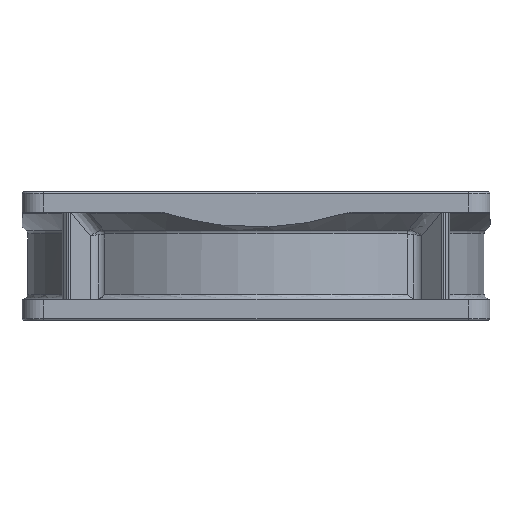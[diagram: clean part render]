
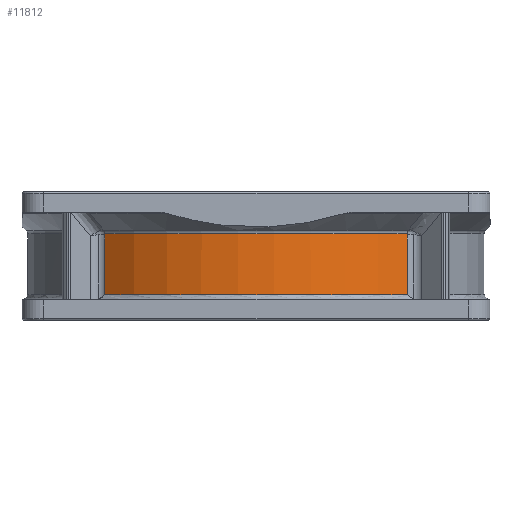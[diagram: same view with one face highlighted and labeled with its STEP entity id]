
A CAD part, left-side view. The second image highlights one B-rep face of the part: STEP entity #11812.
In plain terms, the highlighted cylindrical face has radius 45 mm (diameter 90 mm), a partial arc.
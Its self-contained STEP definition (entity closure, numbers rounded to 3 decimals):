
#165 = ORIENTED_EDGE ( 'NONE', *, *, #15257, .T. ) ;
#271 = B_SPLINE_CURVE_WITH_KNOTS ( 'NONE', 3,
 ( #22482, #15378, #20776, #9972 ),
 .UNSPECIFIED., .F., .F.,
 ( 4, 4 ),
 ( 0., 0. ),
 .UNSPECIFIED. ) ;
#618 = EDGE_CURVE ( 'NONE', #3484, #15333, #7949, .T. ) ;
#701 = VERTEX_POINT ( 'NONE', #13684 ) ;
#773 = AXIS2_PLACEMENT_3D ( 'NONE', #8235, #10064, #22667 ) ;
#845 = CARTESIAN_POINT ( 'NONE',  ( -33.786, -29.724, 5.919 ) ) ;
#2309 = LINE ( 'NONE', #5992, #6507 ) ;
#3103 = EDGE_LOOP ( 'NONE', ( #17671, #4318, #165, #8444, #22756, #9120 ) ) ;
#3484 = VERTEX_POINT ( 'NONE', #16690 ) ;
#4318 = ORIENTED_EDGE ( 'NONE', *, *, #7325, .T. ) ;
#4365 = EDGE_CURVE ( 'NONE', #18162, #19814, #20190, .T. ) ;
#4484 = AXIS2_PLACEMENT_3D ( 'NONE', #15376, #7574, #9265 ) ;
#5992 = CARTESIAN_POINT ( 'NONE',  ( -33.786, 29.724, 5.919 ) ) ;
#6155 = CARTESIAN_POINT ( 'NONE',  ( -33.796, 29.713, -8.264 ) ) ;
#6507 = VECTOR ( 'NONE', #15033, 1000. ) ;
#6592 = EDGE_CURVE ( 'NONE', #19814, #701, #22066, .T. ) ;
#7325 = EDGE_CURVE ( 'NONE', #15333, #14816, #21876, .T. ) ;
#7373 = EDGE_CURVE ( 'NONE', #701, #3484, #271, .T. ) ;
#7574 = DIRECTION ( 'NONE',  ( 0., 0., 1. ) ) ;
#7949 = CIRCLE ( 'NONE', #773, 45. ) ;
#8073 = DIRECTION ( 'NONE',  ( 0., 0., 1. ) ) ;
#8235 = CARTESIAN_POINT ( 'NONE',  ( 0., 0., -8.264 ) ) ;
#8444 = ORIENTED_EDGE ( 'NONE', *, *, #4365, .T. ) ;
#9120 = ORIENTED_EDGE ( 'NONE', *, *, #7373, .T. ) ;
#9265 = DIRECTION ( 'NONE',  ( 1., 0., 0. ) ) ;
#9818 = CARTESIAN_POINT ( 'NONE',  ( -33.786, 29.724, -8.265 ) ) ;
#9972 = CARTESIAN_POINT ( 'NONE',  ( -33.8, -29.707, -8.264 ) ) ;
#10064 = DIRECTION ( 'NONE',  ( 0., 0., -1. ) ) ;
#10795 = CARTESIAN_POINT ( 'NONE',  ( 0., 0., -20.2 ) ) ;
#11812 = ADVANCED_FACE ( 'NONE', ( #14329 ), #12634, .T. ) ;
#12617 = DIRECTION ( 'NONE',  ( 1., 0., 0. ) ) ;
#12634 = CYLINDRICAL_SURFACE ( 'NONE', #4484, 45. ) ;
#13684 = CARTESIAN_POINT ( 'NONE',  ( -33.786, -29.724, -8.265 ) ) ;
#14329 = FACE_OUTER_BOUND ( 'NONE', #3103, .T. ) ;
#14816 = VERTEX_POINT ( 'NONE', #15144 ) ;
#15033 = DIRECTION ( 'NONE',  ( 0., 0., -1. ) ) ;
#15144 = CARTESIAN_POINT ( 'NONE',  ( -33.786, 29.724, -8.265 ) ) ;
#15257 = EDGE_CURVE ( 'NONE', #14816, #18162, #2309, .T. ) ;
#15333 = VERTEX_POINT ( 'NONE', #20680 ) ;
#15376 = CARTESIAN_POINT ( 'NONE',  ( 0., 0., 5.919 ) ) ;
#15378 = CARTESIAN_POINT ( 'NONE',  ( -33.791, -29.718, -8.265 ) ) ;
#15812 = CARTESIAN_POINT ( 'NONE',  ( -33.786, -29.724, -20.2 ) ) ;
#16690 = CARTESIAN_POINT ( 'NONE',  ( -33.8, -29.707, -8.264 ) ) ;
#16748 = CARTESIAN_POINT ( 'NONE',  ( -33.786, 29.724, -20.2 ) ) ;
#17340 = VECTOR ( 'NONE', #8073, 1000. ) ;
#17671 = ORIENTED_EDGE ( 'NONE', *, *, #618, .T. ) ;
#18162 = VERTEX_POINT ( 'NONE', #16748 ) ;
#18822 = CARTESIAN_POINT ( 'NONE',  ( -33.8, 29.707, -8.264 ) ) ;
#19124 = AXIS2_PLACEMENT_3D ( 'NONE', #10795, #23371, #12617 ) ;
#19814 = VERTEX_POINT ( 'NONE', #15812 ) ;
#20190 = CIRCLE ( 'NONE', #19124, 45. ) ;
#20617 = CARTESIAN_POINT ( 'NONE',  ( -33.791, 29.718, -8.265 ) ) ;
#20680 = CARTESIAN_POINT ( 'NONE',  ( -33.8, 29.707, -8.264 ) ) ;
#20776 = CARTESIAN_POINT ( 'NONE',  ( -33.796, -29.713, -8.264 ) ) ;
#21876 = B_SPLINE_CURVE_WITH_KNOTS ( 'NONE', 3,
 ( #18822, #6155, #20617, #9818 ),
 .UNSPECIFIED., .F., .F.,
 ( 4, 4 ),
 ( 0., 0. ),
 .UNSPECIFIED. ) ;
#22066 = LINE ( 'NONE', #845, #17340 ) ;
#22482 = CARTESIAN_POINT ( 'NONE',  ( -33.786, -29.724, -8.265 ) ) ;
#22667 = DIRECTION ( 'NONE',  ( 1., 0., 0. ) ) ;
#22756 = ORIENTED_EDGE ( 'NONE', *, *, #6592, .T. ) ;
#23371 = DIRECTION ( 'NONE',  ( 0., 0., 1. ) ) ;
